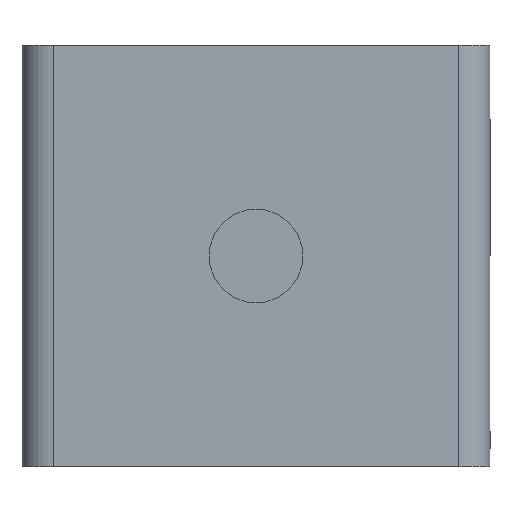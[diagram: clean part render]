
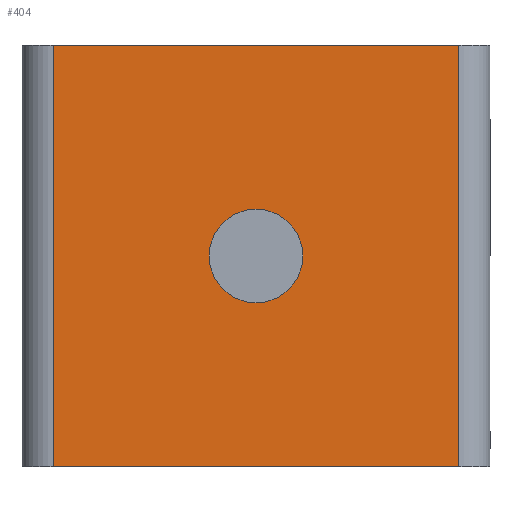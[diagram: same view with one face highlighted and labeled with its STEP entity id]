
A CAD part, front view. The second image highlights one B-rep face of the part: STEP entity #404.
In plain terms, the highlighted planar face has unit normal (0, -1, 0).
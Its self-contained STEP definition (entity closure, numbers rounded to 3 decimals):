
#48 = LINE ( 'NONE', #3410, #696 ) ;
#189 = EDGE_CURVE ( 'NONE', #1766, #1697, #3670, .T. ) ;
#199 = VECTOR ( 'NONE', #3937, 1000. ) ;
#203 = VERTEX_POINT ( 'NONE', #1978 ) ;
#237 = CARTESIAN_POINT ( 'NONE',  ( 0., -57.63, -13.5 ) ) ;
#351 = DIRECTION ( 'NONE',  ( 0., 1., 0. ) ) ;
#404 = ADVANCED_FACE ( 'NONE', ( #530, #2260 ), #3834, .F. ) ;
#488 = AXIS2_PLACEMENT_3D ( 'NONE', #1301, #351, #2577 ) ;
#530 = FACE_BOUND ( 'NONE', #3707, .T. ) ;
#545 = DIRECTION ( 'NONE',  ( 0., 0., 1. ) ) ;
#686 = ORIENTED_EDGE ( 'NONE', *, *, #2321, .F. ) ;
#689 = EDGE_CURVE ( 'NONE', #1437, #2275, #3970, .T. ) ;
#696 = VECTOR ( 'NONE', #4042, 1000. ) ;
#1002 = CARTESIAN_POINT ( 'NONE',  ( 0., -57.63, -16.5 ) ) ;
#1138 = LINE ( 'NONE', #3092, #3568 ) ;
#1176 = EDGE_CURVE ( 'NONE', #2275, #203, #1138, .T. ) ;
#1202 = DIRECTION ( 'NONE',  ( 0., 0., -1. ) ) ;
#1212 = CIRCLE ( 'NONE', #2024, 3. ) ;
#1301 = CARTESIAN_POINT ( 'NONE',  ( -13., -57.63, -27. ) ) ;
#1333 = CARTESIAN_POINT ( 'NONE',  ( 0., -57.63, -13.5 ) ) ;
#1437 = VERTEX_POINT ( 'NONE', #4037 ) ;
#1667 = DIRECTION ( 'NONE',  ( 0., 0., 1. ) ) ;
#1697 = VERTEX_POINT ( 'NONE', #1002 ) ;
#1710 = LINE ( 'NONE', #2059, #199 ) ;
#1735 = ORIENTED_EDGE ( 'NONE', *, *, #689, .T. ) ;
#1766 = VERTEX_POINT ( 'NONE', #4051 ) ;
#1844 = CARTESIAN_POINT ( 'NONE',  ( 0., -57.63, 0. ) ) ;
#1856 = ORIENTED_EDGE ( 'NONE', *, *, #3285, .F. ) ;
#1890 = AXIS2_PLACEMENT_3D ( 'NONE', #237, #2471, #545 ) ;
#1978 = CARTESIAN_POINT ( 'NONE',  ( -13., -57.63, -27. ) ) ;
#2024 = AXIS2_PLACEMENT_3D ( 'NONE', #1333, #3553, #1667 ) ;
#2059 = CARTESIAN_POINT ( 'NONE',  ( 0., -57.63, -27. ) ) ;
#2199 = CARTESIAN_POINT ( 'NONE',  ( 13., -57.63, -27. ) ) ;
#2260 = FACE_OUTER_BOUND ( 'NONE', #3949, .T. ) ;
#2275 = VERTEX_POINT ( 'NONE', #3842 ) ;
#2321 = EDGE_CURVE ( 'NONE', #1697, #1766, #1212, .T. ) ;
#2471 = DIRECTION ( 'NONE',  ( 0., -1., 0. ) ) ;
#2577 = DIRECTION ( 'NONE',  ( 0., 0., 1. ) ) ;
#2753 = ORIENTED_EDGE ( 'NONE', *, *, #189, .F. ) ;
#2878 = ORIENTED_EDGE ( 'NONE', *, *, #1176, .T. ) ;
#3049 = EDGE_CURVE ( 'NONE', #1437, #3601, #48, .T. ) ;
#3092 = CARTESIAN_POINT ( 'NONE',  ( -13., -57.63, -13.5 ) ) ;
#3199 = ORIENTED_EDGE ( 'NONE', *, *, #3049, .F. ) ;
#3285 = EDGE_CURVE ( 'NONE', #3601, #203, #1710, .T. ) ;
#3410 = CARTESIAN_POINT ( 'NONE',  ( 13., -57.63, -13.5 ) ) ;
#3553 = DIRECTION ( 'NONE',  ( 0., -1., 0. ) ) ;
#3568 = VECTOR ( 'NONE', #1202, 1000. ) ;
#3601 = VERTEX_POINT ( 'NONE', #2199 ) ;
#3670 = CIRCLE ( 'NONE', #1890, 3. ) ;
#3707 = EDGE_LOOP ( 'NONE', ( #2753, #686 ) ) ;
#3774 = VECTOR ( 'NONE', #4047, 1000. ) ;
#3834 = PLANE ( 'NONE',  #488 ) ;
#3842 = CARTESIAN_POINT ( 'NONE',  ( -13., -57.63, 0. ) ) ;
#3937 = DIRECTION ( 'NONE',  ( -1., 0., 0. ) ) ;
#3949 = EDGE_LOOP ( 'NONE', ( #1856, #3199, #1735, #2878 ) ) ;
#3970 = LINE ( 'NONE', #1844, #3774 ) ;
#4037 = CARTESIAN_POINT ( 'NONE',  ( 13., -57.63, 0. ) ) ;
#4042 = DIRECTION ( 'NONE',  ( 0., 0., -1. ) ) ;
#4047 = DIRECTION ( 'NONE',  ( -1., 0., 0. ) ) ;
#4051 = CARTESIAN_POINT ( 'NONE',  ( 0., -57.63, -10.5 ) ) ;
